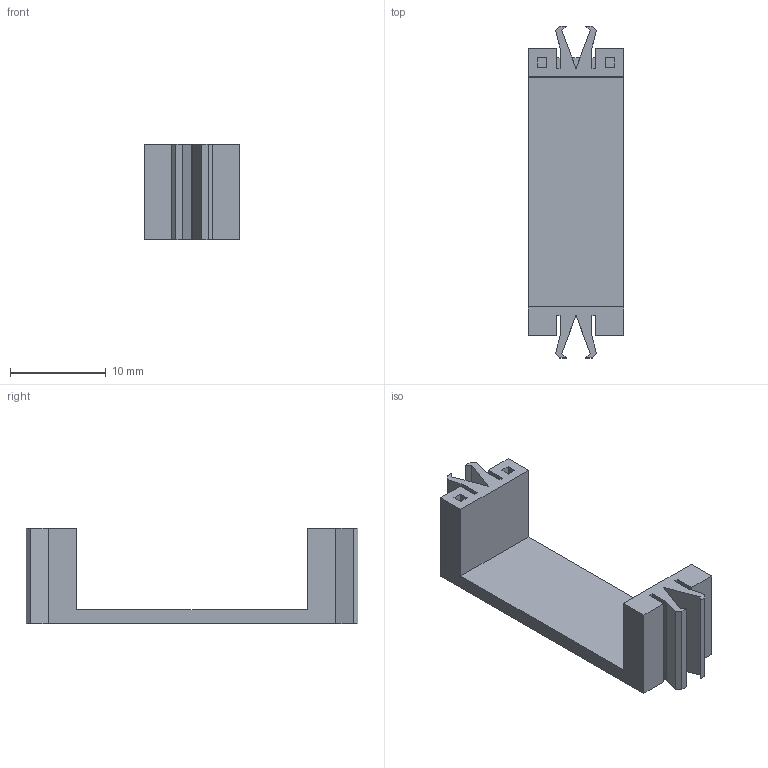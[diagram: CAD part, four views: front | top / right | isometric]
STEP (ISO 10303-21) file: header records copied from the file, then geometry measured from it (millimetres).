
FILE_DESCRIPTION(/* description */ (''),/* implementation_level */ '2;1');
FILE_NAME(/* name */ 'C:/Users/priba/Downloads/Plate1x3x1Cross.step',/* time_stamp */ '2020-11-13T09:22:20+01:00',/* author */ (''),/* organization */ (''),/* preprocessor_version */ 'ST-DEVELOPER v18.1',/* originating_system */ 'Autodesk Translation Framework v9.3.0.1241',/* authorisation */ '');
FILE_SCHEMA (('AUTOMOTIVE_DESIGN { 1 0 10303 214 3 1 1 }'));
Length unit declared in the file: millimetre
Products named in the file (1): Plate1x3x1Cross
Bounding box: 10 x 34.61 x 10 mm (x, y, z)
Volume: 929.6 mm3; surface area: 1717.8 mm2
Topology: 1 solids, 3 shells, 74 faces, 198 edges, 132 vertices
Faces by surface type: plane 74
Entity records: 2280 total; most frequent: CARTESIAN_POINT 405, ORIENTED_EDGE 396, DIRECTION 348, LINE 198, VECTOR 198, EDGE_CURVE 198, VERTEX_POINT 132, EDGE_LOOP 76
